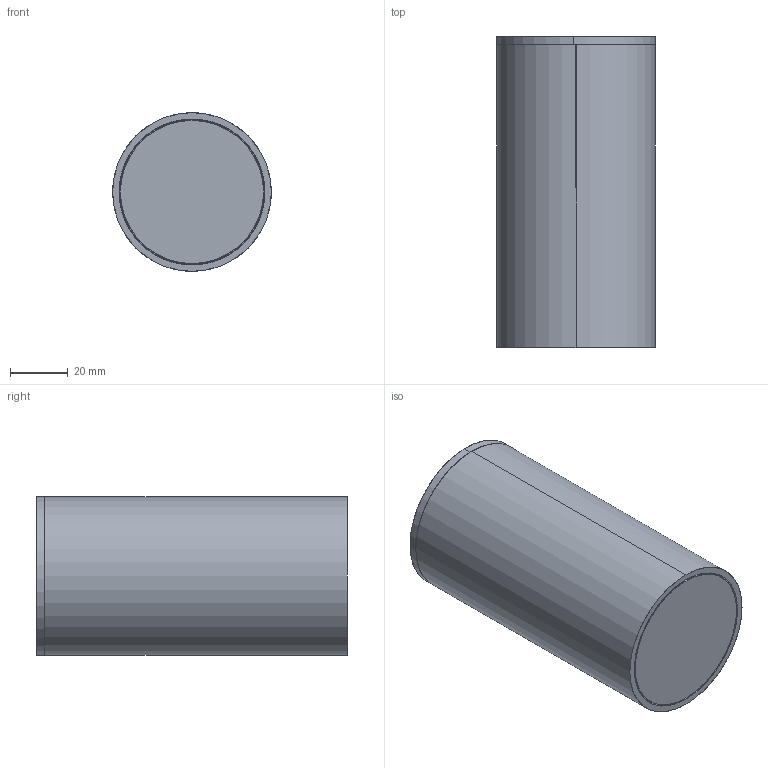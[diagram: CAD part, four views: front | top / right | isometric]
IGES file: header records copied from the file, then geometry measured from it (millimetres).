
Start section: SolidWorks IGES file using analytic representation for surfaces
Global section: file name: F:\GABRYSIA\MODELE 3D\EDESA_S_9110_9111_WWW\EDESA_S_9110_9111.IGS; native system: SolidWorks 2017; preprocessor: SolidWorks 2017; author: Togambi; date: 200710.161011; units: millimetre
Bounding box: 55 x 107.86 x 55 mm (x, y, z)
Surface area: 65796.5 mm2 (no closed solid volume)
Topology: 0 solids, 0 shells, 69 faces, 2312 edges, 2312 vertices
Faces by surface type: revolution 40, bspline 29
